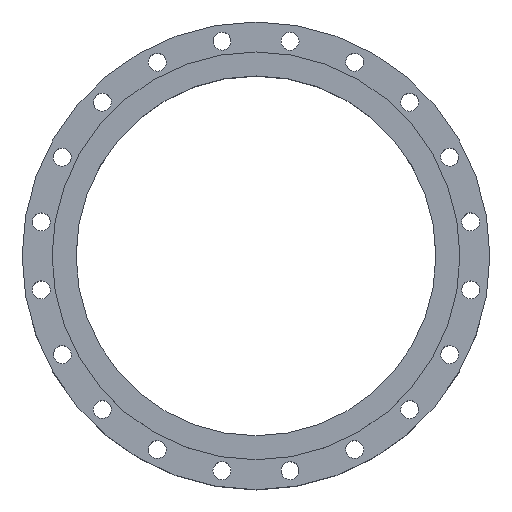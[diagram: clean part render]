
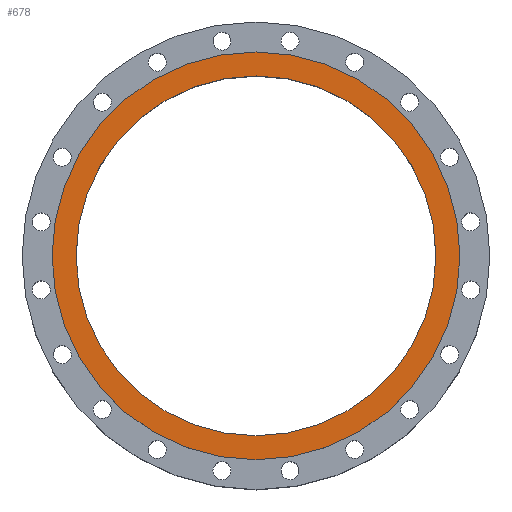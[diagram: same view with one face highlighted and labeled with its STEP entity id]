
A CAD part, top view. The second image highlights one B-rep face of the part: STEP entity #678.
In plain terms, the highlighted planar face has unit normal (0, 0, 1).
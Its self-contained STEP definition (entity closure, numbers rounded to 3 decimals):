
#678=ADVANCED_FACE('',(#1503,#1505),#1507,.T.);
#1503=FACE_BOUND('',#1504,.T.);
#1504=EDGE_LOOP('',(#1836));
#1505=FACE_BOUND('',#1506,.T.);
#1506=EDGE_LOOP('',(#1837));
#1507=PLANE('',#1508);
#1508=AXIS2_PLACEMENT_3D('',#1509,#1510,#1511);
#1509=CARTESIAN_POINT('',(0.,0.,132.5));
#1510=DIRECTION('',(0.,0.,1.));
#1511=DIRECTION('',(0.,1.,0.));
#1836=ORIENTED_EDGE('',*,*,#1984,.F.);
#1837=ORIENTED_EDGE('',*,*,#1986,.T.);
#1984=EDGE_CURVE('',#2246,#2246,#2247,.T.);
#1986=EDGE_CURVE('',#2250,#2250,#2251,.T.);
#2246=VERTEX_POINT('',#3921);
#2247=CIRCLE('',#3922,340.);
#2250=VERTEX_POINT('',#3931);
#2251=CIRCLE('',#3932,300.);
#3921=CARTESIAN_POINT('',(0.,340.,132.5));
#3922=AXIS2_PLACEMENT_3D('',#3923,#3924,#3925);
#3923=CARTESIAN_POINT('',(0.,0.,132.5));
#3924=DIRECTION('',(0.,0.,-1.));
#3925=DIRECTION('',(0.,1.,0.));
#3931=CARTESIAN_POINT('',(0.,300.,132.5));
#3932=AXIS2_PLACEMENT_3D('',#3933,#3934,#3935);
#3933=CARTESIAN_POINT('',(0.,0.,132.5));
#3934=DIRECTION('',(0.,0.,-1.));
#3935=DIRECTION('',(0.,1.,0.));
